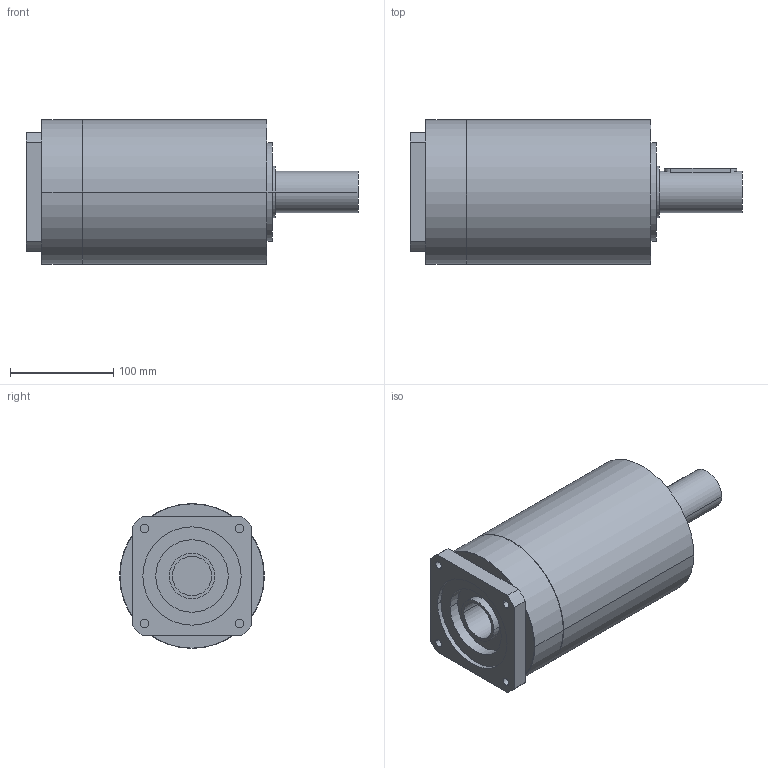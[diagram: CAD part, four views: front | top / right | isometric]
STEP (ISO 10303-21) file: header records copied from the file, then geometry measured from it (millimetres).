
FILE_DESCRIPTION(('CoCreate Modeling STEP Export'),'2;1');
FILE_NAME('GPR150_ig-9-12-16-20-28-35_40_B14_38_P10.stp','2014-08-19T17:04:35',(''),(''),'CoCreate Modeling STEP processor for AP214 (Solid Model)','CoCreate Modeling 16.00C 25-Feb-2009 (C) Parametric Technology GmbH','');
FILE_SCHEMA(('AUTOMOTIVE_DESIGN { 1 0 10303 214 1 1 1 1 }'));
Length unit declared in the file: millimetre
Products named in the file (2): GPR150_ig-9-12-16-20-28-35_40_B14_38_P10
Assembly tree (1 placements, depth 2):
  GPR150_ig-9-12-16-20-28-35_40_B14_38_P10
    GPR150_ig-9-12-16-20-28-35_40_B14_38_P10
Bounding box: 321 x 140 x 140 mm (x, y, z)
Volume: 3531815.7 mm3; surface area: 167184.7 mm2
Topology: 1 solids, 1 shells, 81 faces, 200 edges, 136 vertices
Faces by surface type: cylinder 42, plane 33, cone 6
Entity records: 2051 total; most frequent: ORIENTED_EDGE 396, CARTESIAN_POINT 393, DIRECTION 268, EDGE_CURVE 198, VERTEX_POINT 136, AXIS2_PLACEMENT_3D 99, EDGE_LOOP 98, FACE_OUTER_BOUND 81
